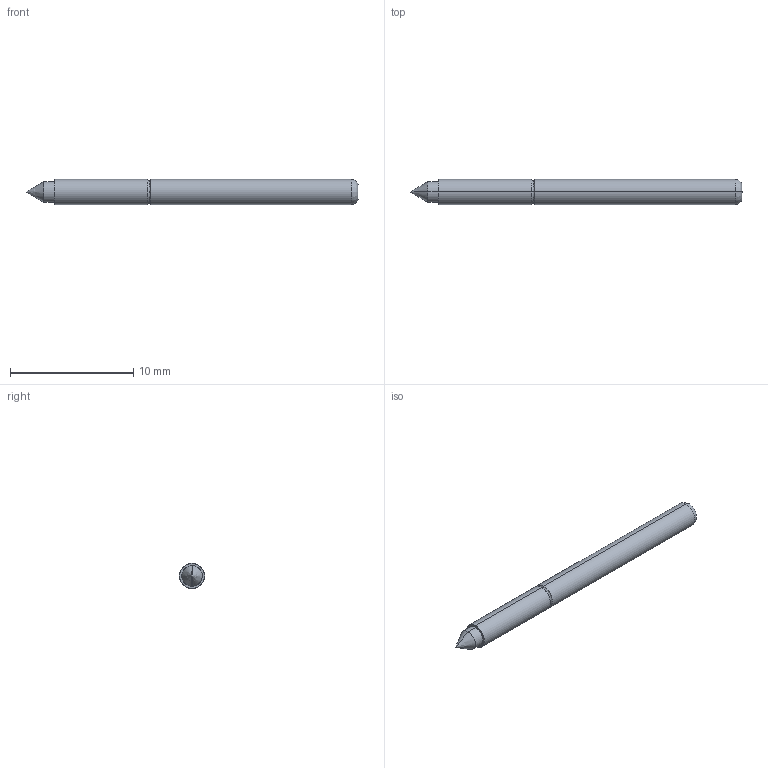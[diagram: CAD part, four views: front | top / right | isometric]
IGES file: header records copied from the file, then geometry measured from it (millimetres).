
Start section: SolidWorks IGES file using analytic representation for surfaces
Global section: file name: O:\PYLON\IGES FILES\P2665\P2665G-1C1S FULL.IGS; native system: SolidWorks 2015; preprocessor: SolidWorks 2015; author: kgolden; date: 171019.132847; units: inch
Bounding box: 26.92 x 2.03 x 2.03 mm (x, y, z)
Surface area: 178.7 mm2 (no closed solid volume)
Topology: 0 solids, 0 shells, 18 faces, 128 edges, 126 vertices
Faces by surface type: revolution 10, bspline 8
